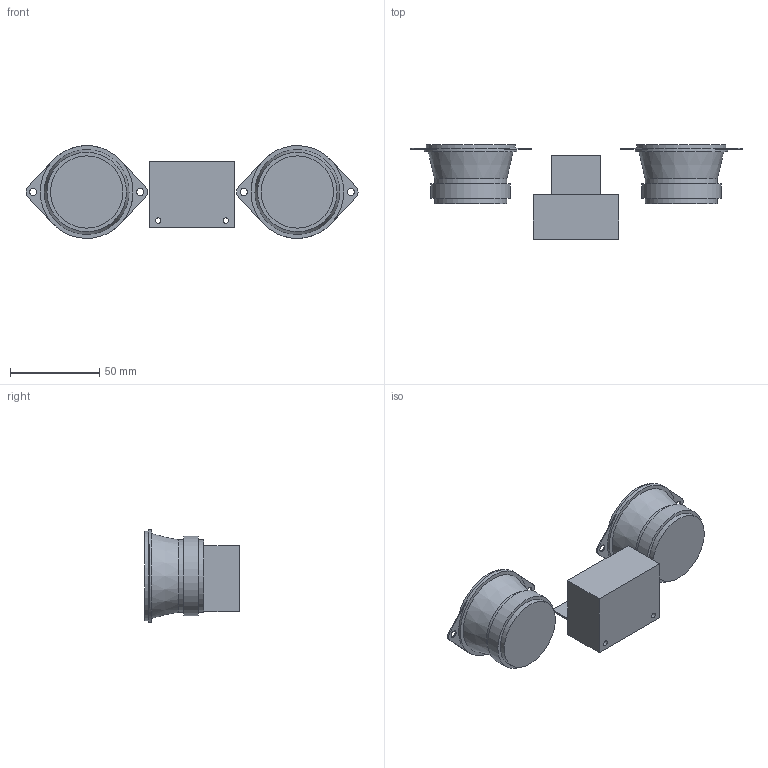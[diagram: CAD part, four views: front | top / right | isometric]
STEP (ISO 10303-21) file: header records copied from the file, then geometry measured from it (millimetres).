
FILE_DESCRIPTION(/* description */ (''),/* implementation_level */ '2;1');
FILE_NAME(/* name */ '/Volumes/1Terra/Lektion_3_Speaker/Lautsprecher_Mini v1.step',/* time_stamp */ '2016-01-30T14:36:28+01:00',/* author */ (''),/* organization */ (''),/* preprocessor_version */ 'ST-DEVELOPER v16.2',/* originating_system */ 'Autodesk Translation Framework v4.3.0.3010',/* authorisation */ '');
FILE_SCHEMA (('AUTOMOTIVE_DESIGN { 1 0 10303 214 3 1 1 }'));
Length unit declared in the file: centimetre
Products named in the file (1): Lautsprecher_Mini v1
Bounding box: 186 x 53 x 52 mm (x, y, z)
Volume: 147321.1 mm3; surface area: 28315.8 mm2
Topology: 3 solids, 3 shells, 56 faces, 128 edges, 86 vertices
Faces by surface type: plane 34, cylinder 20, cone 2
Full cylindrical faces by diameter (mm): 3 x2, 4 x4, 40.5 x4, 44.5 x2, 50 x2, 52 x2
Entity records: 1498 total; most frequent: DIRECTION 266, CARTESIAN_POINT 241, ORIENTED_EDGE 208, AXIS2_PLACEMENT_3D 105, EDGE_CURVE 104, EDGE_LOOP 94, VERTEX_POINT 80, LINE 56
